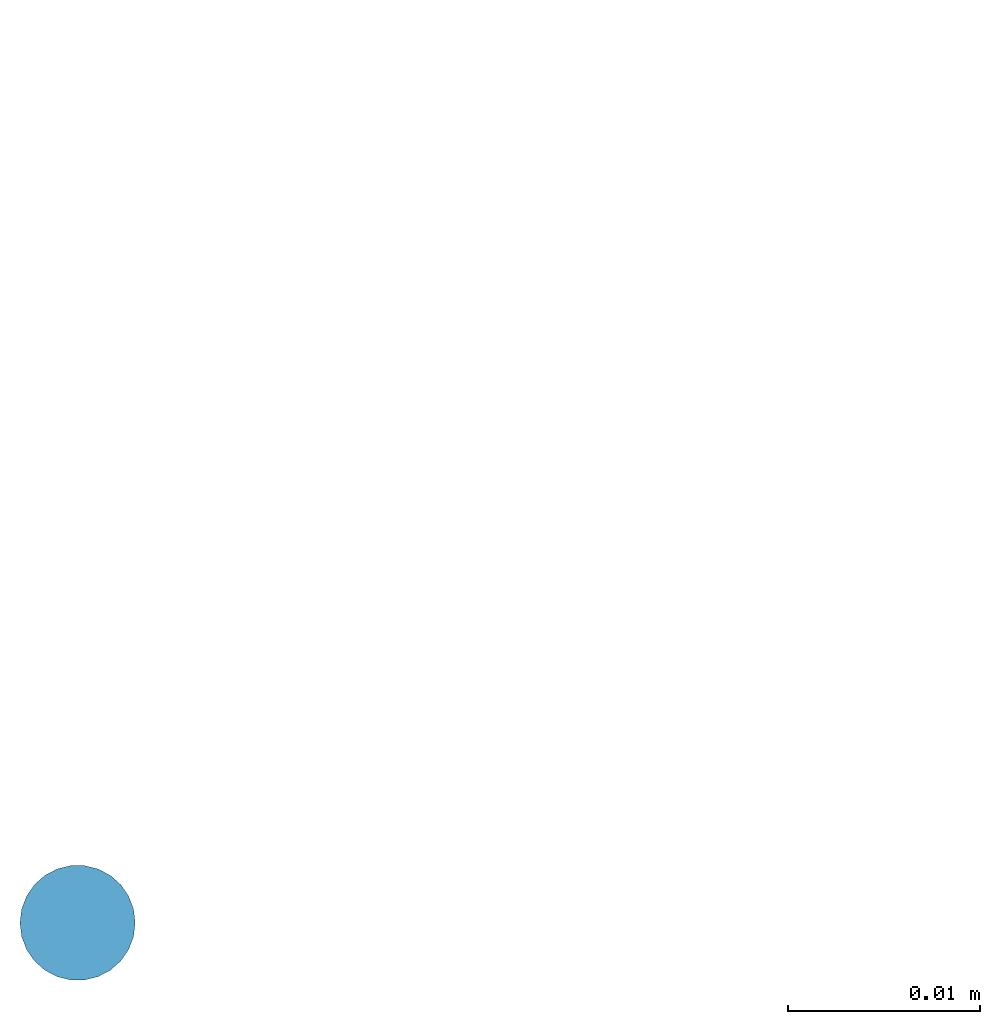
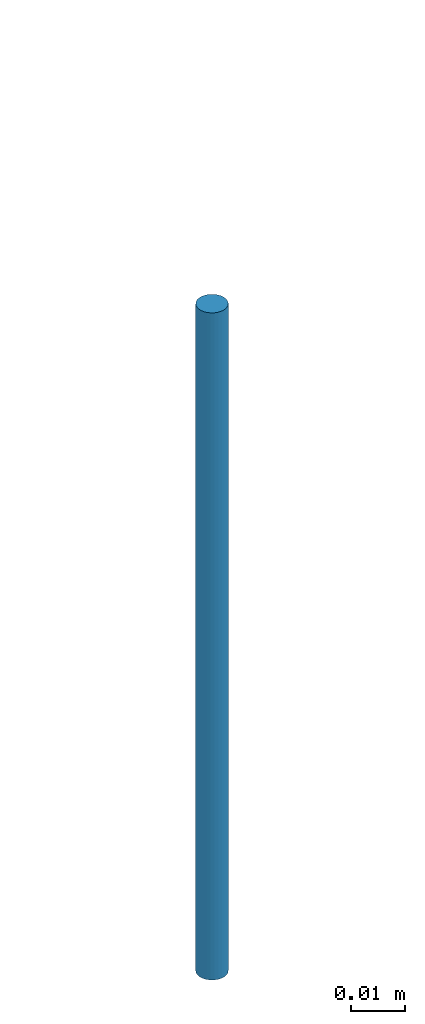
# One storey, part 3 of 6: 1 reinforcing bar.
"""IFC2X3 building model written with IfcOpenShell, lengths in centimetres."""

from ifc_helpers import new_model, entity, si_unit, converted_unit, derived_unit, direction, frame, origin, place, context, subcontext, project, spatial, element, save


model = new_model("IFC2X3")

# Units and contexts
model_context = context("Model", 3, precision=0.001, world=origin(), true_north=direction((6.12303176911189e-17, 1.0)))
body_context = subcontext(model_context, "Body", "Model", "MODEL_VIEW")
ifc_project = project(units=[si_unit("LENGTHUNIT", "METRE", prefix="CENTI"), si_unit("AREAUNIT", "SQUARE_METRE"), si_unit("VOLUMEUNIT", "CUBIC_METRE"), converted_unit("PLANEANGLEUNIT", "DEGREE", entity("IfcRatioMeasure", 0.0174532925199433), si_unit("PLANEANGLEUNIT", "RADIAN"), dimensions=[0, 0, 0, 0, 0, 0, 0]), si_unit("MASSUNIT", "GRAM", prefix="KILO"), si_unit("TIMEUNIT", "SECOND"), si_unit("FREQUENCYUNIT", "HERTZ"), si_unit("THERMODYNAMICTEMPERATUREUNIT", "DEGREE_CELSIUS"), derived_unit("THERMALTRANSMITTANCEUNIT", [(si_unit("MASSUNIT", "GRAM", prefix="KILO"), 1), (si_unit("THERMODYNAMICTEMPERATUREUNIT", "KELVIN"), -1), (si_unit("TIMEUNIT", "SECOND"), -3)]), derived_unit("VOLUMETRICFLOWRATEUNIT", [(si_unit("LENGTHUNIT", "METRE"), 3), (si_unit("TIMEUNIT", "SECOND"), -1)]), si_unit("ELECTRICCURRENTUNIT", "AMPERE"), si_unit("ELECTRICVOLTAGEUNIT", "VOLT"), si_unit("POWERUNIT", "WATT"), si_unit("FORCEUNIT", "NEWTON"), si_unit("ILLUMINANCEUNIT", "LUX"), si_unit("LUMINOUSFLUXUNIT", "LUMEN"), si_unit("LUMINOUSINTENSITYUNIT", "CANDELA"), derived_unit("USERDEFINED", [(si_unit("MASSUNIT", "GRAM", prefix="KILO"), -1), (si_unit("LENGTHUNIT", "METRE"), -2), (si_unit("TIMEUNIT", "SECOND"), 3), (si_unit("LUMINOUSFLUXUNIT", "LUMEN"), 1)]), derived_unit("LINEARVELOCITYUNIT", [(si_unit("LENGTHUNIT", "METRE"), 1), (si_unit("TIMEUNIT", "SECOND"), -1)]), si_unit("PRESSUREUNIT", "PASCAL"), derived_unit("USERDEFINED", [(si_unit("LENGTHUNIT", "METRE"), -2), (si_unit("MASSUNIT", "GRAM", prefix="KILO"), 1), (si_unit("TIMEUNIT", "SECOND"), -2)])], contexts=[model_context])

# Site, building, storey
site_placement = place(None, origin())
site = spatial("IfcSite", under=ifc_project, at=site_placement, Name="Default", CompositionType="ELEMENT")
building_placement = place(site_placement, origin())
building = spatial("IfcBuilding", under=site, at=building_placement, CompositionType="ELEMENT")
storey_placement = place(building_placement, frame((0.0, 0.0, 544.0)))
storey = spatial("IfcBuildingStorey", under=building, at=storey_placement, Name="R+2", CompositionType="ELEMENT", Elevation=544.0)

# Reinforcing bar
reinforcing_bar_placement = place(storey_placement, origin())
element("IfcReinforcingBar", 1, at=reinforcing_bar_placement, inside=storey, Name="Barre d'armature:HA6 (Fe400) : Forme 00: 4", ObjectType="Barre d'armature:HA6 (Fe400)", BarLength=15.0, BarRole="NOTDEFINED", CrossSectionArea=2.82743338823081e-05, NominalDiameter=0.6, context=body_context, shape_type="AdvancedSweptSolid", body=[
    entity("IfcSweptDiskSolid", entity("IfcCompositeCurve", [entity("IfcCompositeCurveSegment", "CONTINUOUS", True, entity("IfcPolyline", [entity("IfcCartesianPoint", [2243.01095142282, 23210.5753424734, 252.5]), entity("IfcCartesianPoint", [2243.01095142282, 23210.5753424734, 267.5])]))], False), 0.3, None, 0.0, 1.0),
])

save(model, "model.ifc")
